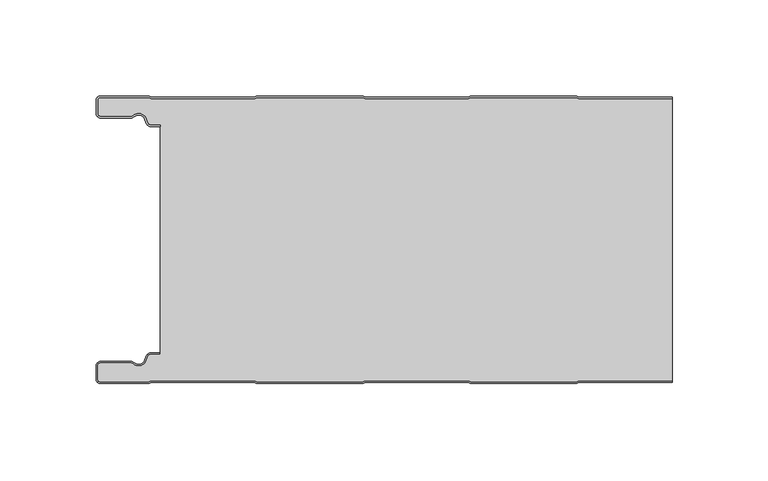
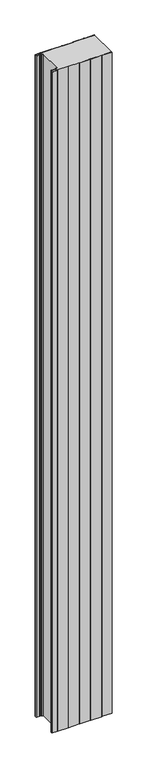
"""IFC4 building model written with IfcOpenShell, lengths in millimetres: plate geometry, ACH_Panel-Frigorífico_PUR-PIR : ACH_Panel-Frigorífico-PIR_150mm."""

import ifcopenshell
import ifcopenshell.guid

model = None  # the IFC model being written
_history = None  # IfcOwnerHistory: only IFC2X3 demands one
_inside = {}  # id of a spatial element -> (the spatial element, [elements in it])
_under = {}  # id of a project, library or spatial element -> (it, [spatial elements below it])
_declared = {}  # id of a project -> (the project, [libraries it declares])
_typed = {}  # id of a type object -> (the type object, [elements of that type])
_made_of = {}  # id of a material, layer set ... -> (it, [elements and type objects made of it])


def new_model(schema):
    """Start an empty IFC model of exactly this schema.

    Asked for "IFC4X3", IfcOpenShell would pick the latest addendum, in which some entities
    have other attributes; the version numbers below select the first issue.
    IFC2X3 requires an IfcOwnerHistory on every rooted entity: one is made here for all.
    """
    global model, _history
    if schema == "IFC4X3":
        model = ifcopenshell.file(schema_version=(4, 3, 0, 0))
    else:
        model = ifcopenshell.file(schema=schema)
    _inside.clear()
    _under.clear()
    _declared.clear()
    _typed.clear()
    _made_of.clear()
    _history = None
    if model.schema == "IFC2X3":
        org = make("IfcOrganization", Name="unknown")
        user = make(
            "IfcPersonAndOrganization",
            ThePerson=make("IfcPerson", FamilyName="unknown"),
            TheOrganization=org,
        )
        app = make(
            "IfcApplication",
            ApplicationDeveloper=org,
            Version="unknown",
            ApplicationFullName="unknown",
            ApplicationIdentifier="unknown",
        )
        _history = make(
            "IfcOwnerHistory",
            OwningUser=user,
            OwningApplication=app,
            ChangeAction="ADDED",
            CreationDate=0,
        )
    return model


def make(cls, **values):
    """One entity of the class cls with the attributes given. An attribute that is None is left unset."""
    return model.create_entity(
        cls, **{name: value for name, value in values.items() if value is not None}
    )


def rooted(cls, **values):
    """An entity with a GlobalId (a new one), such as an element, a storey or a relation."""
    return make(cls, GlobalId=ifcopenshell.guid.new(), OwnerHistory=_history, **values)


def si_unit(unit_type, name, prefix=None):
    """IfcSIUnit, for example si_unit("LENGTHUNIT", "METRE", prefix="MILLI")."""
    return make("IfcSIUnit", UnitType=unit_type, Prefix=prefix, Name=name)


def assignment(units):
    """IfcUnitAssignment: the units of a project."""
    return None if units is None else make("IfcUnitAssignment", Units=units)


def point(xyz):
    """IfcCartesianPoint."""
    return None if xyz is None else make("IfcCartesianPoint", Coordinates=xyz)


def direction(xyz):
    """IfcDirection."""
    return None if xyz is None else make("IfcDirection", DirectionRatios=xyz)


def frame(location, z_axis=None, x_axis=None):
    """IfcAxis2Placement3D, a coordinate frame: its origin and axes. An axis left out is left unset."""
    return make(
        "IfcAxis2Placement3D",
        Location=point(location),
        Axis=direction(z_axis),
        RefDirection=direction(x_axis),
    )


def frame_2d(location, x_axis=None):
    """IfcAxis2Placement2D, a coordinate frame in the plane: its origin and x axis."""
    return make(
        "IfcAxis2Placement2D", Location=point(location), RefDirection=direction(x_axis)
    )


def origin():
    """The frame at (0, 0, 0) with its axes left unset."""
    return frame((0.0, 0.0, 0.0))


def origin_with_axes():
    """The frame at (0, 0, 0) with the z axis (0, 0, 1) and the x axis (1, 0, 0) written out."""
    return frame((0.0, 0.0, 0.0), z_axis=(0.0, 0.0, 1.0), x_axis=(1.0, 0.0, 0.0))


def place(relative_to, where):
    """IfcLocalPlacement: puts the frame where relative to a parent placement (None: the world)."""
    return make(
        "IfcLocalPlacement", PlacementRelTo=relative_to, RelativePlacement=where
    )


def context(
    kind, dimensions, precision=None, world=None, true_north=None, identifier=None
):
    """IfcGeometricRepresentationContext, for example the 3D "Model" context."""
    return make(
        "IfcGeometricRepresentationContext",
        ContextIdentifier=identifier,
        ContextType=kind,
        CoordinateSpaceDimension=dimensions,
        Precision=precision,
        WorldCoordinateSystem=world,
        TrueNorth=true_north,
    )


def project(units=None, contexts=None):
    """IfcProject with its units and contexts."""
    return rooted(
        "IfcProject",
        Name="project",
        RepresentationContexts=contexts,
        UnitsInContext=assignment(units),
    )


def spatial(cls, under=None, at=None, **own):
    """A site, building, storey or space (cls), placed at a placement, below another one or the project."""
    s = rooted(cls, ObjectPlacement=at, **own)
    if under is not None:
        _under.setdefault(under.id(), (under, []))[1].append(s)
    return s


def polyline(points):
    """IfcPolyline through the points."""
    return make("IfcPolyline", Points=[point(p) for p in points])


def circle_curve(where, radius):
    """IfcCircle in the frame where."""
    return make("IfcCircle", Position=where, Radius=radius)


def trimmed(basis, trim1, trim2, sense, master):
    """IfcTrimmedCurve: the piece of a basis curve between two trims."""
    return make(
        "IfcTrimmedCurve",
        BasisCurve=basis,
        Trim1=trim1,
        Trim2=trim2,
        SenseAgreement=sense,
        MasterRepresentation=master,
    )


def segment(curve, same_sense, transition):
    """IfcCompositeCurveSegment."""
    return make(
        "IfcCompositeCurveSegment",
        Transition=transition,
        SameSense=same_sense,
        ParentCurve=curve,
    )


def composite_curve(segments, self_intersect=None):
    """IfcCompositeCurve: segments joined end to end."""
    return make("IfcCompositeCurve", Segments=segments, SelfIntersect=self_intersect)


def outline(outer, holes=None, kind="AREA"):
    """IfcArbitraryClosedProfileDef: a profile drawn as a closed curve; with holes, ...WithVoids."""
    if holes is None:
        return make("IfcArbitraryClosedProfileDef", ProfileType=kind, OuterCurve=outer)
    return make(
        "IfcArbitraryProfileDefWithVoids",
        ProfileType=kind,
        OuterCurve=outer,
        InnerCurves=holes,
    )


def extrude(swept, where, along, depth):
    """IfcExtrudedAreaSolid: the profile swept, set in the frame where, extruded along a direction by depth."""
    return make(
        "IfcExtrudedAreaSolid",
        SweptArea=swept,
        Position=where,
        ExtrudedDirection=direction(along),
        Depth=depth,
    )


def shape(context_of_items, identifier, shape_type, items):
    """IfcShapeRepresentation: the items that make up one representation, for example the "Body"."""
    return make(
        "IfcShapeRepresentation",
        ContextOfItems=context_of_items,
        RepresentationIdentifier=identifier,
        RepresentationType=shape_type,
        Items=items,
    )


def source(mapping_origin, context_of_items, identifier, shape_type, items):
    """IfcRepresentationMap: a shape defined once, which mapped items show again and again."""
    return make(
        "IfcRepresentationMap",
        MappingOrigin=mapping_origin,
        MappedRepresentation=shape(context_of_items, identifier, shape_type, items),
    )


def transform(
    local_origin,
    x_axis=None,
    y_axis=None,
    z_axis=None,
    scale=None,
    scale2=None,
    scale3=None,
    uniform=True,
):
    """IfcCartesianTransformationOperator3D, or its non-uniform kind. x_axis, y_axis, z_axis: its Axis1, 2, 3."""
    if uniform:
        return make(
            "IfcCartesianTransformationOperator3D",
            Axis1=direction(x_axis),
            Axis2=direction(y_axis),
            LocalOrigin=point(local_origin),
            Scale=scale,
            Axis3=direction(z_axis),
        )
    return make(
        "IfcCartesianTransformationOperator3DnonUniform",
        Axis1=direction(x_axis),
        Axis2=direction(y_axis),
        LocalOrigin=point(local_origin),
        Scale=scale,
        Axis3=direction(z_axis),
        Scale2=scale2,
        Scale3=scale3,
    )


def mapped(mapping_source, mapping_target):
    """IfcMappedItem: shows the shape of a source again, moved by a transform."""
    return make(
        "IfcMappedItem", MappingSource=mapping_source, MappingTarget=mapping_target
    )


def made_of(thing, what):
    """Note that an element or type object is made of a material, layer set ...; save() writes the relation."""
    if what is not None:
        _made_of.setdefault(what.id(), (what, []))[1].append(thing)
    return thing


def element(
    cls,
    number,
    at=None,
    inside=None,
    cuts=None,
    type_object=None,
    material=None,
    context=None,
    identifier="Body",
    shape_type=None,
    held_by="IfcProductDefinitionShape",
    body=None,
    shapes=None,
    **own,
):
    """One element of the class cls, such as IfcWall. Its Tag is "e" and its number.

    at: its placement. inside: the storey or other place that contains it. cuts: it is an
    opening in that element (IfcRelVoidsElement). A single representation is given by context,
    identifier, shape_type and body (its items); several are given by shapes. held_by: the class
    of the entity that holds the representations. save() writes the other relations.
    """
    e = rooted(cls, Tag="e%d" % number, ObjectPlacement=at, **own)
    if body is not None:
        shapes = [shape(context, identifier, shape_type, body)]
    if shapes is not None:
        e.Representation = make(held_by, Representations=shapes)
    if inside is not None:
        _inside.setdefault(inside.id(), (inside, []))[1].append(e)
    if cuts is not None:
        rooted(
            "IfcRelVoidsElement", RelatingBuildingElement=cuts, RelatedOpeningElement=e
        )
    if type_object is not None:
        _typed.setdefault(type_object.id(), (type_object, []))[1].append(e)
    return made_of(e, material)


def aggregate(whole, parts):
    """IfcRelAggregates: a whole, such as a stair, and the parts it consists of."""
    return rooted("IfcRelAggregates", RelatingObject=whole, RelatedObjects=parts)


def save(model, path):
    """Write the relations noted so far, then the file.

    IfcRelAggregates (storeys below a building ...), IfcRelContainedInSpatialStructure (elements
    in a storey), IfcRelDefinesByType, IfcRelAssociatesMaterial and IfcRelDeclares: one each for
    every whole, place, type object, material and project.
    """
    for whole, parts in _under.values():
        aggregate(whole, parts)
    for where, things in _inside.values():
        rooted(
            "IfcRelContainedInSpatialStructure",
            RelatedElements=things,
            RelatingStructure=where,
        )
    for kind, things in _typed.values():
        rooted("IfcRelDefinesByType", RelatedObjects=things, RelatingType=kind)
    for what, things in _made_of.values():
        rooted("IfcRelAssociatesMaterial", RelatedObjects=things, RelatingMaterial=what)
    for by, libraries in _declared.values():
        rooted("IfcRelDeclares", RelatingContext=by, RelatedDefinitions=libraries)
    model.write(path)


def plate_023f9d0f(model_context):
    return source(origin(), model_context, "Body", "SweptSolid", [
        extrude(outline(composite_curve([segment(trimmed(circle_curve(frame_2d((-147.49499, -9.0180361)), 2.50501), [point((-147.49499, -11.5230461))], [point((-150.0, -9.0180361))], False, "CARTESIAN"), True, "CONTINUOUS"), segment(polyline([(-150.0, -9.0180361), (-150.0, -2.50501)]), True, "CONTINUOUS"), segment(trimmed(circle_curve(frame_2d((-147.49499, -2.50501)), 2.50501), [point((-150.0, -2.50501))], [point((-147.49499, 0.0))], False, "CARTESIAN"), True, "CONTINUOUS"), segment(polyline([(-147.49499, 0.0), (-122.2103007, 0.0), (-121.028188, -0.6012024), (-67.6391467, -0.6012024), (-66.457034, 0.0), (-10.8776353, 0.0), (-9.6955227, -0.6012024), (43.6935186, -0.6012024), (44.8756313, 0.0), (100.45503, 0.0), (101.6371427, -0.6012024), (150.0, -0.6012024), (150.0, -1.4012024), (101.4453963, -1.4012024), (100.2632836, -0.8), (45.0673777, -0.8), (43.885265, -1.4012024), (-9.887269, -1.4012024), (-11.0693817, -0.8), (-66.2652876, -0.8), (-67.4474003, -1.4012024), (-121.2199344, -1.4012024), (-122.4020471, -0.8), (-147.49499, -0.8)]), True, "CONTINUOUS"), segment(trimmed(circle_curve(frame_2d((-147.49499, -2.50501)), 1.70501), [point((-147.49499, -0.8))], [point((-149.2, -2.50501))], True, "CARTESIAN"), True, "CONTINUOUS"), segment(polyline([(-149.2, -2.50501), (-149.2, -9.0180361)]), True, "CONTINUOUS"), segment(trimmed(circle_curve(frame_2d((-147.49499, -9.0180361)), 1.70501), [point((-149.2, -9.0180361))], [point((-147.49499, -10.7230461))], True, "CARTESIAN"), True, "CONTINUOUS"), segment(polyline([(-147.49499, -10.7230461), (-131.8173283, -10.7230461)]), True, "CONTINUOUS"), segment(trimmed(circle_curve(frame_2d((-131.8173283, -9.0180361)), 1.70501), [point((-131.8173283, -10.7230461))], [point((-130.6895701, -10.2967936))], True, "CARTESIAN"), True, "CONTINUOUS"), segment(trimmed(circle_curve(frame_2d((-127.8407481, -13.5270541)), 4.307014), [point((-130.6895701, -10.2967936))], [point((-123.7934788, -12.0539686))], False, "CARTESIAN"), True, "CONTINUOUS"), segment(polyline([(-123.7934788, -12.0539686), (-123.0450711, -14.1102019)]), True, "CONTINUOUS"), segment(trimmed(circle_curve(frame_2d((-121.4428858, -13.5270541)), 1.70501), [point((-123.0450711, -14.1102019))], [point((-121.4428858, -15.2320641))], True, "CARTESIAN"), True, "CONTINUOUS"), segment(polyline([(-121.4428858, -15.2320641), (-116.4328657, -15.2320641), (-116.4328657, -16.0320641), (-121.4428858, -16.0320641)]), True, "CONTINUOUS"), segment(trimmed(circle_curve(frame_2d((-121.4428858, -13.5270541)), 2.50501), [point((-121.4428858, -16.0320641))], [point((-123.7968252, -14.383818))], False, "CARTESIAN"), True, "CONTINUOUS"), segment(polyline([(-123.7968252, -14.383818), (-124.5452329, -12.3275847)]), True, "CONTINUOUS"), segment(trimmed(circle_curve(frame_2d((-127.8407481, -13.5270541)), 3.507014), [point((-124.5452329, -12.3275847))], [point((-130.1604199, -10.8967936))], True, "CARTESIAN"), True, "CONTINUOUS"), segment(trimmed(circle_curve(frame_2d((-131.8173283, -9.0180361)), 2.50501), [point((-130.1604199, -10.8967936))], [point((-131.8173283, -11.5230461))], False, "CARTESIAN"), True, "CONTINUOUS"), segment(polyline([(-131.8173283, -11.5230461), (-147.49499, -11.5230461)]), True, "CONTINUOUS")], self_intersect=False)), origin_with_axes(), (0.0, 0.0, 1.0), 3500.0),
        extrude(outline(composite_curve([segment(trimmed(circle_curve(frame_2d((-121.4428858, -13.5270541)), 1.70501), [point((-121.4428858, -15.2320641))], [point((-123.0450711, -14.1102019))], False, "CARTESIAN"), True, "CONTINUOUS"), segment(polyline([(-123.0450711, -14.1102019), (-123.7934788, -12.0539686)]), True, "CONTINUOUS"), segment(trimmed(circle_curve(frame_2d((-127.8407481, -13.5270541)), 4.307014), [point((-123.7934788, -12.0539686))], [point((-130.6895701, -10.2967936))], True, "CARTESIAN"), True, "CONTINUOUS"), segment(trimmed(circle_curve(frame_2d((-131.8173283, -9.0180361)), 1.70501), [point((-130.6895701, -10.2967936))], [point((-131.8173283, -10.7230461))], False, "CARTESIAN"), True, "CONTINUOUS"), segment(polyline([(-131.8173283, -10.7230461), (-147.49499, -10.7230461)]), True, "CONTINUOUS"), segment(trimmed(circle_curve(frame_2d((-147.49499, -9.0180361)), 1.70501), [point((-147.49499, -10.7230461))], [point((-149.2, -9.0180361))], False, "CARTESIAN"), True, "CONTINUOUS"), segment(polyline([(-149.2, -9.0180361), (-149.2, -2.50501)]), True, "CONTINUOUS"), segment(trimmed(circle_curve(frame_2d((-147.49499, -2.50501)), 1.70501), [point((-149.2, -2.50501))], [point((-147.49499, -0.8))], False, "CARTESIAN"), True, "CONTINUOUS"), segment(polyline([(-147.49499, -0.8), (-122.4020471, -0.8), (-121.2199344, -1.4012024), (-67.4474003, -1.4012024), (-66.2652876, -0.8), (-11.0693817, -0.8), (-9.887269, -1.4012024), (43.885265, -1.4012024), (45.0673777, -0.8), (100.2632836, -0.8), (101.4453963, -1.4012024), (150.0, -1.4012024), (150.0, -148.5987976), (101.4453963, -148.5987976), (100.2632836, -149.2), (45.0673777, -149.2), (43.885265, -148.5987976), (-9.887269, -148.5987976), (-11.0693817, -149.2), (-66.2652876, -149.2), (-67.4474003, -148.5987976), (-121.2199344, -148.5987976), (-122.4020471, -149.2), (-147.49499, -149.2)]), True, "CONTINUOUS"), segment(trimmed(circle_curve(frame_2d((-147.49499, -147.49499)), 1.70501), [point((-147.49499, -149.2))], [point((-149.2, -147.49499))], False, "CARTESIAN"), True, "CONTINUOUS"), segment(polyline([(-149.2, -147.49499), (-149.2, -140.9819639)]), True, "CONTINUOUS"), segment(trimmed(circle_curve(frame_2d((-147.49499, -140.9819639)), 1.70501), [point((-149.2, -140.9819639))], [point((-147.49499, -139.2769539))], False, "CARTESIAN"), True, "CONTINUOUS"), segment(polyline([(-147.49499, -139.2769539), (-131.8173283, -139.2769539)]), True, "CONTINUOUS"), segment(trimmed(circle_curve(frame_2d((-131.8173283, -140.9819639)), 1.70501), [point((-131.8173283, -139.2769539))], [point((-130.6895701, -139.7032064))], False, "CARTESIAN"), True, "CONTINUOUS"), segment(trimmed(circle_curve(frame_2d((-127.8407481, -136.4729459)), 4.307014), [point((-130.6895701, -139.7032064))], [point((-123.7934788, -137.9460314))], True, "CARTESIAN"), True, "CONTINUOUS"), segment(polyline([(-123.7934788, -137.9460314), (-123.0450711, -135.8897981)]), True, "CONTINUOUS"), segment(trimmed(circle_curve(frame_2d((-121.4428858, -136.4729459)), 1.70501), [point((-123.0450711, -135.8897981))], [point((-121.4428858, -134.7679359))], False, "CARTESIAN"), True, "CONTINUOUS"), segment(polyline([(-121.4428858, -134.7679359), (-116.4328657, -134.7679359), (-116.4328657, -15.2320641), (-121.4428858, -15.2320641)]), True, "CONTINUOUS")], self_intersect=False)), origin_with_axes(), (0.0, 0.0, 1.0), 3500.0),
        extrude(outline(composite_curve([segment(polyline([(-147.49499, -138.4769539), (-131.8173283, -138.4769539)]), True, "CONTINUOUS"), segment(trimmed(circle_curve(frame_2d((-131.8173283, -140.9819639)), 2.50501), [point((-131.8173283, -138.4769539))], [point((-130.1604199, -139.1032064))], False, "CARTESIAN"), True, "CONTINUOUS"), segment(trimmed(circle_curve(frame_2d((-127.8407481, -136.4729459)), 3.507014), [point((-130.1604199, -139.1032064))], [point((-124.5452329, -137.6724153))], True, "CARTESIAN"), True, "CONTINUOUS"), segment(polyline([(-124.5452329, -137.6724153), (-123.7968252, -135.616182)]), True, "CONTINUOUS"), segment(trimmed(circle_curve(frame_2d((-121.4428858, -136.4729459)), 2.50501), [point((-123.7968252, -135.616182))], [point((-121.4428858, -133.9679359))], False, "CARTESIAN"), True, "CONTINUOUS"), segment(polyline([(-121.4428858, -133.9679359), (-116.4328657, -133.9679359), (-116.4328657, -134.7679359), (-121.4428858, -134.7679359)]), True, "CONTINUOUS"), segment(trimmed(circle_curve(frame_2d((-121.4428858, -136.4729459)), 1.70501), [point((-121.4428858, -134.7679359))], [point((-123.0450711, -135.8897981))], True, "CARTESIAN"), True, "CONTINUOUS"), segment(polyline([(-123.0450711, -135.8897981), (-123.7934788, -137.9460314)]), True, "CONTINUOUS"), segment(trimmed(circle_curve(frame_2d((-127.8407481, -136.4729459)), 4.307014), [point((-123.7934788, -137.9460314))], [point((-130.6895701, -139.7032064))], False, "CARTESIAN"), True, "CONTINUOUS"), segment(trimmed(circle_curve(frame_2d((-131.8173283, -140.9819639)), 1.70501), [point((-130.6895701, -139.7032064))], [point((-131.8173283, -139.2769539))], True, "CARTESIAN"), True, "CONTINUOUS"), segment(polyline([(-131.8173283, -139.2769539), (-147.49499, -139.2769539)]), True, "CONTINUOUS"), segment(trimmed(circle_curve(frame_2d((-147.49499, -140.9819639)), 1.70501), [point((-147.49499, -139.2769539))], [point((-149.2, -140.9819639))], True, "CARTESIAN"), True, "CONTINUOUS"), segment(polyline([(-149.2, -140.9819639), (-149.2, -147.49499)]), True, "CONTINUOUS"), segment(trimmed(circle_curve(frame_2d((-147.49499, -147.49499)), 1.70501), [point((-149.2, -147.49499))], [point((-147.49499, -149.2))], True, "CARTESIAN"), True, "CONTINUOUS"), segment(polyline([(-147.49499, -149.2), (-122.4020471, -149.2), (-121.2199344, -148.5987976), (-67.4474003, -148.5987976), (-66.2652876, -149.2), (-11.0693817, -149.2), (-9.887269, -148.5987976), (43.885265, -148.5987976), (45.0673777, -149.2), (100.2632836, -149.2), (101.4453963, -148.5987976), (150.0, -148.5987976), (150.0, -149.3987976), (101.6371427, -149.3987976), (100.45503, -150.0), (44.8756313, -150.0), (43.6935186, -149.3987976), (-9.6955227, -149.3987976), (-10.8776353, -150.0), (-66.457034, -150.0), (-67.6391467, -149.3987976), (-121.028188, -149.3987976), (-122.2103007, -150.0), (-147.49499, -150.0)]), True, "CONTINUOUS"), segment(trimmed(circle_curve(frame_2d((-147.49499, -147.49499)), 2.50501), [point((-147.49499, -150.0))], [point((-150.0, -147.49499))], False, "CARTESIAN"), True, "CONTINUOUS"), segment(polyline([(-150.0, -147.49499), (-150.0, -140.9819639)]), True, "CONTINUOUS"), segment(trimmed(circle_curve(frame_2d((-147.49499, -140.9819639)), 2.50501), [point((-150.0, -140.9819639))], [point((-147.49499, -138.4769539))], False, "CARTESIAN"), True, "CONTINUOUS")], self_intersect=False)), origin_with_axes(), (0.0, 0.0, 1.0), 3500.0),
    ])


if __name__ == "__main__":
    model = new_model("IFC4")
    model_context = context("Model", 3, world=origin())
    ifc_project = project(units=[si_unit("LENGTHUNIT", "METRE", prefix="MILLI")], contexts=[model_context])
    site = spatial("IfcSite", under=ifc_project)
    building = spatial("IfcBuilding", under=site)
    placement = place(None, origin())
    plate_shape = plate_023f9d0f(model_context)
    element("IfcPlate", 1, ObjectType="ACH_Panel-Frigorífico_PUR-PIR : ACH_Panel-Frigorífico-PIR_150mm", at=placement, inside=building, context=model_context, shape_type="MappedRepresentation", body=[
        mapped(plate_shape, transform((0.0, 0.0, 0.0), x_axis=(1.0, 0.0, 0.0), y_axis=(0.0, 1.0, 0.0), z_axis=(0.0, 0.0, 1.0))),
    ])
    save(model, "model.ifc")
